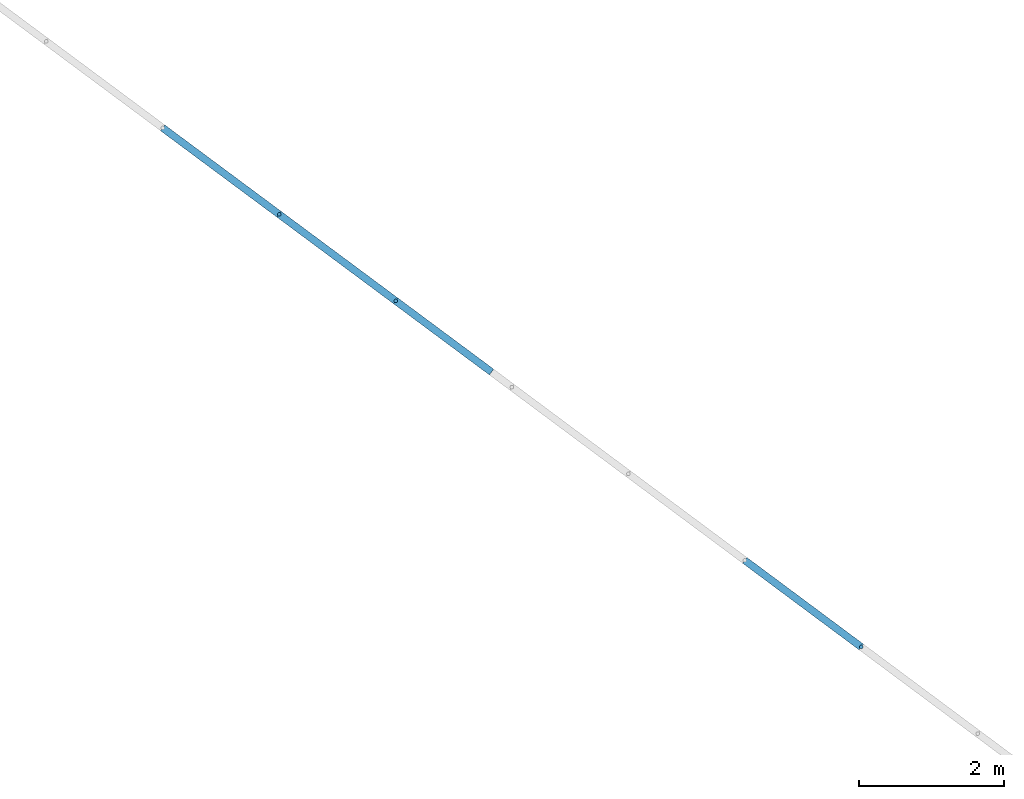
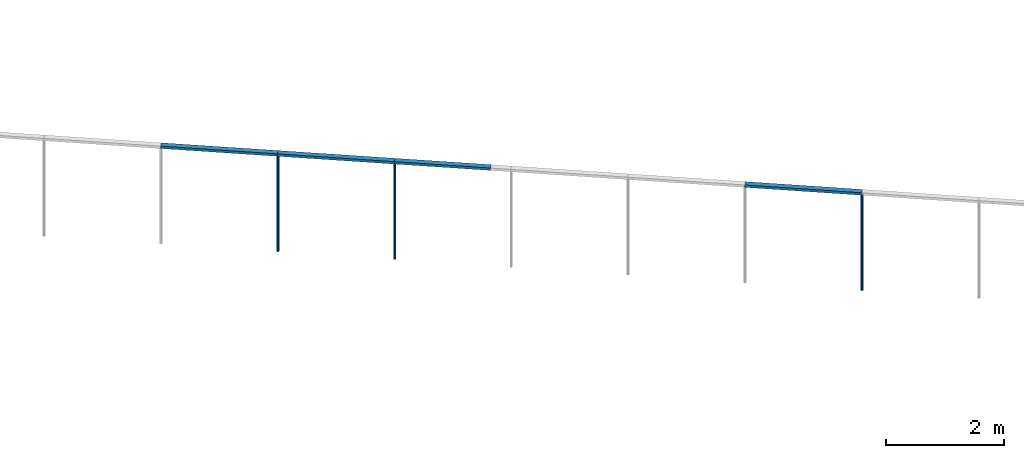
# One storey, part 3 of 12: 7 members, 2 elements without a shape of their own.
"""IFC2X3 building model written with IfcOpenShell, lengths in metres."""

from ifc_helpers import new_model, entity, si_unit, converted_unit, derived_unit, direction, frame, frame_2d, origin, origin_2d_with_axis, place, context, subcontext, project, spatial, rectangle, circle, extrude, source, transform, mapped, material, type_object, type_shapes, element, aggregate, save


model = new_model("IFC2X3")

# Units and contexts
model_context = context("Model", 3, precision=1e-05, world=origin(), true_north=direction((6.123031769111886e-17, 1.0)))
body_context = subcontext(model_context, "Body", "Model", "MODEL_VIEW")
ifc_project = project(units=[si_unit("LENGTHUNIT", "METRE"), si_unit("AREAUNIT", "SQUARE_METRE"), si_unit("VOLUMEUNIT", "CUBIC_METRE"), converted_unit("PLANEANGLEUNIT", "DEGREE", entity("IfcRatioMeasure", 0.017453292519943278), si_unit("PLANEANGLEUNIT", "RADIAN"), dimensions=[0, 0, 0, 0, 0, 0, 0]), si_unit("MASSUNIT", "GRAM", prefix="KILO"), derived_unit("MASSDENSITYUNIT", [(si_unit("MASSUNIT", "GRAM", prefix="KILO"), 1), (si_unit("LENGTHUNIT", "METRE"), -3)]), derived_unit("IONCONCENTRATIONUNIT", [(si_unit("MASSUNIT", "GRAM", prefix="KILO"), 1), (si_unit("LENGTHUNIT", "METRE"), -3)]), derived_unit("MOMENTOFINERTIAUNIT", [(si_unit("LENGTHUNIT", "METRE"), 4)]), si_unit("TIMEUNIT", "SECOND"), si_unit("FREQUENCYUNIT", "HERTZ"), si_unit("THERMODYNAMICTEMPERATUREUNIT", "DEGREE_CELSIUS"), derived_unit("THERMALTRANSMITTANCEUNIT", [(si_unit("MASSUNIT", "GRAM", prefix="KILO"), 1), (si_unit("THERMODYNAMICTEMPERATUREUNIT", "KELVIN"), -1), (si_unit("TIMEUNIT", "SECOND"), -3)]), derived_unit("THERMALCONDUCTANCEUNIT", [(si_unit("MASSUNIT", "GRAM", prefix="KILO"), 1), (si_unit("THERMODYNAMICTEMPERATUREUNIT", "KELVIN"), -1), (si_unit("TIMEUNIT", "SECOND"), -3), (si_unit("LENGTHUNIT", "METRE"), 1)]), derived_unit("VOLUMETRICFLOWRATEUNIT", [(si_unit("LENGTHUNIT", "METRE"), 3), (si_unit("TIMEUNIT", "SECOND"), -1)]), derived_unit("MASSFLOWRATEUNIT", [(si_unit("MASSUNIT", "GRAM", prefix="KILO"), 1), (si_unit("TIMEUNIT", "SECOND"), -1)]), derived_unit("ROTATIONALFREQUENCYUNIT", [(si_unit("TIMEUNIT", "SECOND"), -1)]), si_unit("ELECTRICCURRENTUNIT", "AMPERE"), si_unit("ELECTRICVOLTAGEUNIT", "VOLT"), si_unit("POWERUNIT", "WATT"), si_unit("FORCEUNIT", "NEWTON", prefix="KILO"), si_unit("ILLUMINANCEUNIT", "LUX"), si_unit("LUMINOUSFLUXUNIT", "LUMEN"), si_unit("LUMINOUSINTENSITYUNIT", "CANDELA"), derived_unit("USERDEFINED", [(si_unit("MASSUNIT", "GRAM", prefix="KILO"), -1), (si_unit("LENGTHUNIT", "METRE"), -2), (si_unit("TIMEUNIT", "SECOND"), 3), (si_unit("LUMINOUSFLUXUNIT", "LUMEN"), 1)]), derived_unit("USERDEFINED", [(si_unit("MASSUNIT", "GRAM", prefix="KILO"), 1), (si_unit("TIMEUNIT", "SECOND"), -3), (si_unit("LENGTHUNIT", "METRE"), 3), (si_unit("ELECTRICCURRENTUNIT", "AMPERE"), -2)]), derived_unit("SOUNDPOWERUNIT", [(si_unit("MASSUNIT", "GRAM", prefix="KILO"), 1), (si_unit("TIMEUNIT", "SECOND"), -3), (si_unit("LENGTHUNIT", "METRE"), 2)]), derived_unit("SOUNDPRESSUREUNIT", [(si_unit("MASSUNIT", "GRAM", prefix="KILO"), 1), (si_unit("LENGTHUNIT", "METRE"), -1), (si_unit("TIMEUNIT", "SECOND"), -2)]), derived_unit("LINEARVELOCITYUNIT", [(si_unit("LENGTHUNIT", "METRE"), 1), (si_unit("TIMEUNIT", "SECOND"), -1)]), si_unit("PRESSUREUNIT", "PASCAL"), derived_unit("USERDEFINED", [(si_unit("MASSUNIT", "GRAM", prefix="KILO"), 1), (si_unit("LENGTHUNIT", "METRE"), -2), (si_unit("TIMEUNIT", "SECOND"), -2)]), derived_unit("LINEARFORCEUNIT", [(si_unit("MASSUNIT", "GRAM", prefix="KILO"), 1), (si_unit("TIMEUNIT", "SECOND"), -2)]), derived_unit("PLANARFORCEUNIT", [(si_unit("MASSUNIT", "GRAM", prefix="KILO"), 1), (si_unit("LENGTHUNIT", "METRE"), -1), (si_unit("TIMEUNIT", "SECOND"), -2)]), derived_unit("SPECIFICHEATCAPACITYUNIT", [(si_unit("THERMODYNAMICTEMPERATUREUNIT", "KELVIN"), -1), (si_unit("LENGTHUNIT", "METRE"), 2), (si_unit("TIMEUNIT", "SECOND"), -2)]), derived_unit("HEATINGVALUEUNIT", [(si_unit("LENGTHUNIT", "METRE"), 2), (si_unit("TIMEUNIT", "SECOND"), -2)]), derived_unit("VAPORPERMEABILITYUNIT", [(si_unit("LENGTHUNIT", "METRE"), -1), (si_unit("TIMEUNIT", "SECOND"), 1)]), derived_unit("DYNAMICVISCOSITYUNIT", [(si_unit("MASSUNIT", "GRAM", prefix="KILO"), 1), (si_unit("TIMEUNIT", "SECOND"), -1), (si_unit("LENGTHUNIT", "METRE"), -1)]), derived_unit("THERMALEXPANSIONCOEFFICIENTUNIT", [(si_unit("THERMODYNAMICTEMPERATUREUNIT", "KELVIN"), -1)]), derived_unit("MODULUSOFELASTICITYUNIT", [(si_unit("MASSUNIT", "GRAM", prefix="KILO"), 1), (si_unit("LENGTHUNIT", "METRE"), -1), (si_unit("TIMEUNIT", "SECOND"), -2)]), derived_unit("ISOTHERMALMOISTURECAPACITYUNIT", [(si_unit("LENGTHUNIT", "METRE"), 3), (si_unit("MASSUNIT", "GRAM", prefix="KILO"), -1)]), derived_unit("MOISTUREDIFFUSIVITYUNIT", [(si_unit("TIMEUNIT", "SECOND"), -1), (si_unit("LENGTHUNIT", "METRE"), 2)])], contexts=[model_context])

# Site, building, storey
site_placement = place(None, origin())
site = spatial("IfcSite", under=ifc_project, at=site_placement, Name="Superficie", CompositionType="ELEMENT")
building_placement = place(site_placement, frame((0.0, 0.0, 235.0), z_axis=(0.0, 0.0, 1.0), x_axis=(-0.7996477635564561, 0.6004693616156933, 0.0)))
building = spatial("IfcBuilding", under=site, at=building_placement, CompositionType="ELEMENT")
storey_placement = place(building_placement, frame((0.0, 0.0, -4.459999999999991)))
storey = spatial("IfcBuildingStorey", under=building, at=storey_placement, Name="PS1- Vestuari", CompositionType="ELEMENT", Elevation=-4.459999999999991)

# Curtain wall, member
curtain_wall_type = type_object("IfcCurtainWallType", Name="Muro cortina:SER EXT- Tanca exterior", PredefinedType="NOTDEFINED")
curtain_wall_1_placement = place(storey_placement, frame((0.0, 0.0, 4.459999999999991)))
curtain_wall_1 = element("IfcCurtainWall", 1, at=curtain_wall_1_placement, inside=storey, type_object=curtain_wall_type, Name="Muro cortina:SER EXT- Tanca exterior", ObjectType="Muro cortina:SER EXT- Tanca exterior")
ifc_material_1 = material(Name="Acero inoxidable")
member_type_1 = type_object("IfcMemberType", Name="Montante circular:Perfil Tanca exterior", PredefinedType="MULLION", material=ifc_material_1)
shared_shape_1 = source(origin(), body_context, "Body", "SweptSolid", [
    extrude(circle(Radius=0.025, at=frame_2d((-2.1149748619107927e-18, -4.0388614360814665e-17), x_axis=(1.0, 0.0))), frame((0.0, 0.0, -2.0), z_axis=(0.0, 0.0, 1.0), x_axis=(-1.0, 0.0, 0.0)), (0.0, 0.0, 1.0), 1.9999999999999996),
])
type_shapes(member_type_1, [shared_shape_1])
member_1_placement = place(curtain_wall_1_placement, frame((17.91042912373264, -66.67002740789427, -5.509999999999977), z_axis=(0.0, 0.0, -1.0), x_axis=(-0.9999891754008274, -0.004652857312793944, 0.0)))
member_1 = element("IfcMember", 2, at=member_1_placement, type_object=member_type_1, material=ifc_material_1, Name="Montante circular:Perfil Tanca exterior", ObjectType="Montante circular:Perfil Tanca exterior", context=body_context, shape_type="MappedRepresentation", body=[
    mapped(shared_shape_1, transform((0.0, 0.0, 0.0), scale=1.0)),
])

# Curtain wall, members
curtain_wall_2_placement = place(storey_placement, frame((0.0, 0.0, 4.459999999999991)))
curtain_wall_2 = element("IfcCurtainWall", 3, at=curtain_wall_2_placement, inside=storey, type_object=curtain_wall_type, Name="Muro cortina:SER EXT- Tanca exterior", ObjectType="Muro cortina:SER EXT- Tanca exterior")
member_2_placement = place(curtain_wall_2_placement, frame((27.90315729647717, -66.62073919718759, -5.509999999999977), z_axis=(0.0, 0.0, -1.0), x_axis=(-0.9999853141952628, -0.005419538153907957, 0.0)))
member_2 = element("IfcMember", 4, at=member_2_placement, type_object=member_type_1, material=ifc_material_1, Name="Montante circular:Perfil Tanca exterior", ObjectType="Montante circular:Perfil Tanca exterior", context=body_context, shape_type="MappedRepresentation", body=[
    mapped(shared_shape_1, transform((0.0, 0.0, 0.0), scale=1.0)),
])
member_3_placement = place(curtain_wall_2_placement, frame((25.903186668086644, -66.6315782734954, -5.509999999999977), z_axis=(0.0, 0.0, -1.0), x_axis=(-0.9999853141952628, -0.005419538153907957, 0.0)))
member_3 = element("IfcMember", 5, at=member_3_placement, type_object=member_type_1, material=ifc_material_1, Name="Montante circular:Perfil Tanca exterior", ObjectType="Montante circular:Perfil Tanca exterior", context=body_context, shape_type="MappedRepresentation", body=[
    mapped(shared_shape_1, transform((0.0, 0.0, 0.0), scale=1.0)),
])

# Member
ifc_material_2 = material(Name="_Formigó- Solera- T1- STR")
member_type_2 = type_object("IfcMemberType", Name="Montante rectangular:Montante rectangular 100x50", PredefinedType="MULLION", material=ifc_material_2)
shared_shape_2 = source(origin(), body_context, "Body", "SweptSolid", [
    extrude(rectangle(XDim=0.1, YDim=0.05000000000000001, at=origin_2d_with_axis()), frame((-0.025000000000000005, 0.0, -2.0), z_axis=(0.0, 0.0, 1.0), x_axis=(0.0, -1.0, 0.0)), (0.0, 0.0, 1.0), 2.0000000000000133),
])
type_shapes(member_type_2, [shared_shape_2])
member_4_placement = place(curtain_wall_1_placement, frame((17.91042912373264, -66.67002740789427, -3.459999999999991), z_axis=(-0.9999891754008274, -0.004652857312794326, 0.0), x_axis=(0.0, 0.0, 1.0)))
member_4 = element("IfcMember", 6, at=member_4_placement, type_object=member_type_2, material=ifc_material_2, Name="Montante rectangular:Montante rectangular 100x50", ObjectType="Montante rectangular:Montante rectangular 100x50", context=body_context, shape_type="MappedRepresentation", body=[
    mapped(shared_shape_2, transform((0.0, 0.0, 0.0), scale=1.0)),
])

aggregate(curtain_wall_1, [member_1, member_4])

member_5_placement = place(curtain_wall_2_placement, frame((27.90315729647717, -66.62073919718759, -3.459999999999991), z_axis=(-0.9999853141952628, -0.005419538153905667, 0.0), x_axis=(0.0, 0.0, 1.0)))
member_5 = element("IfcMember", 7, at=member_5_placement, type_object=member_type_2, material=ifc_material_2, Name="Montante rectangular:Montante rectangular 100x50", ObjectType="Montante rectangular:Montante rectangular 100x50", context=body_context, shape_type="MappedRepresentation", body=[
    mapped(shared_shape_2, transform((0.0, 0.0, 0.0), scale=1.0)),
])

member_6_placement = place(curtain_wall_2_placement, frame((25.903186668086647, -66.6315782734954, -3.459999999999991), z_axis=(-0.9999853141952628, -0.005419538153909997, 0.0), x_axis=(0.0, 0.0, 1.0)))
member_6 = element("IfcMember", 8, at=member_6_placement, type_object=member_type_2, material=ifc_material_2, Name="Montante rectangular:Montante rectangular 100x50", ObjectType="Montante rectangular:Montante rectangular 100x50", context=body_context, shape_type="MappedRepresentation", body=[
    mapped(shared_shape_2, transform((0.0, 0.0, 0.0), scale=1.0)),
])

member_type_3 = type_object("IfcMemberType", Name="Montante rectangular:Montante rectangular 100x50", PredefinedType="MULLION", material=ifc_material_2)
shared_shape_3 = source(origin(), body_context, "Body", "SweptSolid", [
    extrude(rectangle(XDim=0.1, YDim=0.05000000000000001, at=origin_2d_with_axis()), frame((-0.025000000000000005, 0.0, -1.6428504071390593), z_axis=(0.0, 0.0, 1.0), x_axis=(0.0, -1.0, 0.0)), (0.0, 0.0, 1.0), 1.6428695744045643),
])
type_shapes(member_type_3, [shared_shape_3])
member_7_placement = place(curtain_wall_2_placement, frame((24.260360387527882, -66.64048176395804, -3.459999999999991), z_axis=(-0.9999853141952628, -0.005419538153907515, 0.0), x_axis=(0.0, 0.0, 1.0)))
member_7 = element("IfcMember", 9, at=member_7_placement, type_object=member_type_3, material=ifc_material_2, Name="Montante rectangular:Montante rectangular 100x50", ObjectType="Montante rectangular:Montante rectangular 100x50", context=body_context, shape_type="MappedRepresentation", body=[
    mapped(shared_shape_3, transform((0.0, 0.0, 0.0), scale=1.0)),
])

aggregate(curtain_wall_2, [member_2, member_3, member_7, member_5, member_6])

save(model, "model.ifc")
